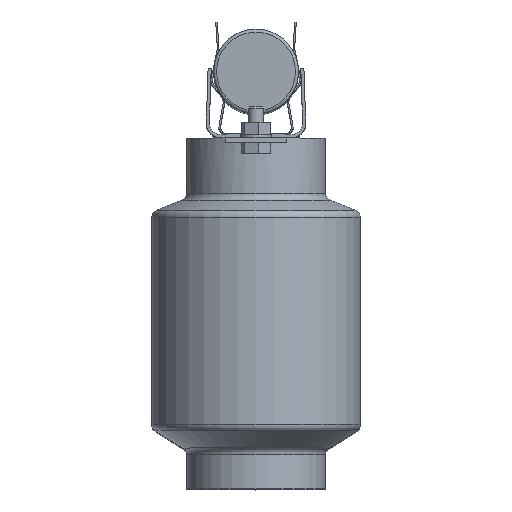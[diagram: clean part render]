
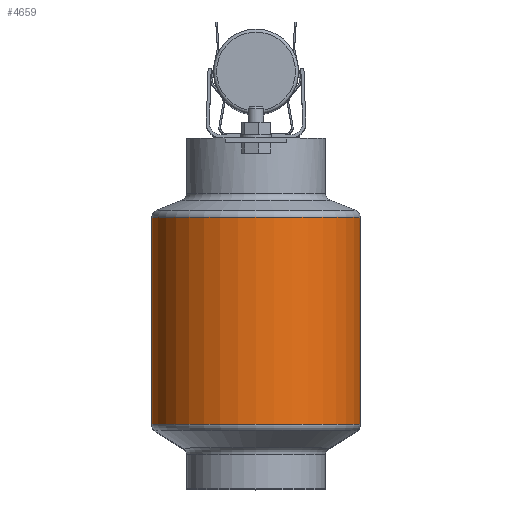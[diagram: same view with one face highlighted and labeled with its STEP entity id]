
A CAD part, top view. The second image highlights one B-rep face of the part: STEP entity #4659.
In plain terms, the highlighted cylindrical face has radius 67.5 mm (diameter 135 mm), a full revolution.
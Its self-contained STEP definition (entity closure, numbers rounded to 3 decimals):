
#569 = CIRCLE ( 'NONE', #3444, 67.5 ) ;
#681 = EDGE_CURVE ( 'NONE', #3380, #3380, #741, .T. ) ;
#741 = CIRCLE ( 'NONE', #1582, 67.5 ) ;
#794 = EDGE_CURVE ( 'NONE', #3124, #3124, #569, .T. ) ;
#1405 = ORIENTED_EDGE ( 'NONE', *, *, #794, .T. ) ;
#1412 = ORIENTED_EDGE ( 'NONE', *, *, #681, .T. ) ;
#1423 = FACE_OUTER_BOUND ( 'NONE', #2946, .T. ) ;
#1582 = AXIS2_PLACEMENT_3D ( 'NONE', #2523, #2563, #2532 ) ;
#2014 = CARTESIAN_POINT ( 'NONE',  ( 67.5, 41.748, 170. ) ) ;
#2413 = AXIS2_PLACEMENT_3D ( 'NONE', #3242, #3171, #2550 ) ;
#2523 = CARTESIAN_POINT ( 'NONE',  ( 0., 41.748, 170. ) ) ;
#2532 = DIRECTION ( 'NONE',  ( 1., 0., 0. ) ) ;
#2550 = DIRECTION ( 'NONE',  ( -1., 0., 0. ) ) ;
#2563 = DIRECTION ( 'NONE',  ( 0., 1., 0. ) ) ;
#2946 = EDGE_LOOP ( 'NONE', ( #1405 ) ) ;
#3124 = VERTEX_POINT ( 'NONE', #5143 ) ;
#3171 = DIRECTION ( 'NONE',  ( 0., -1., 0. ) ) ;
#3242 = CARTESIAN_POINT ( 'NONE',  ( 0., 0., 170. ) ) ;
#3380 = VERTEX_POINT ( 'NONE', #2014 ) ;
#3444 = AXIS2_PLACEMENT_3D ( 'NONE', #3606, #3738, #3829 ) ;
#3606 = CARTESIAN_POINT ( 'NONE',  ( 0., 175.615, 170. ) ) ;
#3710 = FACE_OUTER_BOUND ( 'NONE', #5482, .T. ) ;
#3738 = DIRECTION ( 'NONE',  ( 0., -1., 0. ) ) ;
#3829 = DIRECTION ( 'NONE',  ( 1., 0., 0. ) ) ;
#4659 = ADVANCED_FACE ( 'NONE', ( #3710, #1423 ), #4791, .T. ) ;
#4791 = CYLINDRICAL_SURFACE ( 'NONE', #2413, 67.5 ) ;
#5143 = CARTESIAN_POINT ( 'NONE',  ( 67.5, 175.615, 170. ) ) ;
#5482 = EDGE_LOOP ( 'NONE', ( #1412 ) ) ;
